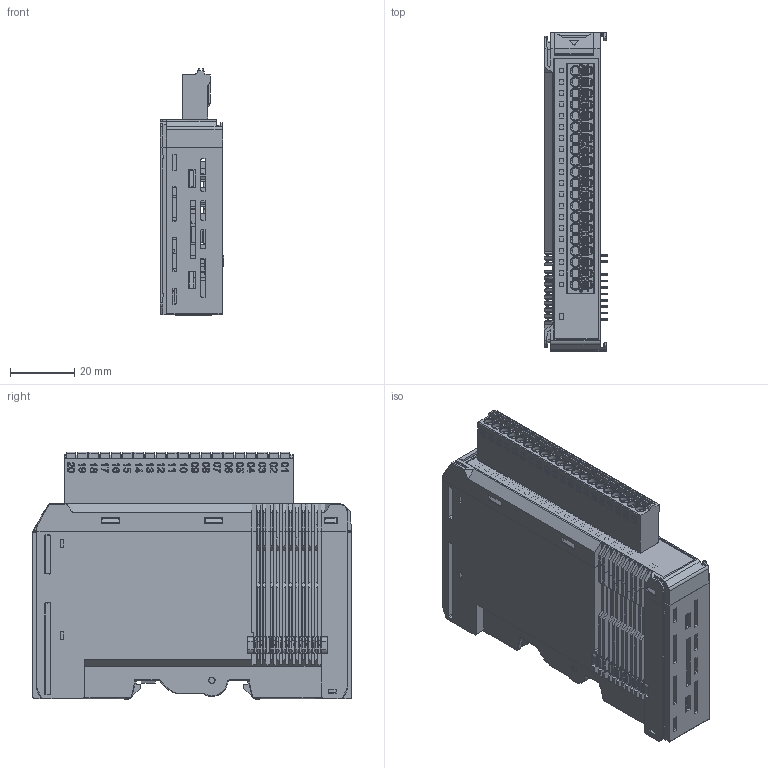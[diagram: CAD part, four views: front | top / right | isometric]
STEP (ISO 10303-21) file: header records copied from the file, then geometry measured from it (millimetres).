
FILE_DESCRIPTION((''),'2;1');
FILE_NAME('3D_45MR','2018-10-16T',('ChrisYC_Huang'),('PTC'),'PRO/ENGINEER BY PARAMETRIC TECHNOLOGY CORPORATION, 2017170','PRO/ENGINEER BY PARAMETRIC TECHNOLOGY CORPORATION, 2017170','');
FILE_SCHEMA(('AUTOMOTIVE_DESIGN { 1 0 10303 214 1 1 1 1 }'));
Products named in the file (1): 3D_45MR
Bounding box: 19.9 x 99 x 76.92 mm (x, y, z)
Volume: 48846.7 mm3; surface area: 71927.9 mm2
Topology: 2 solids, 32 shells, 7892 faces, 24060 edges, 16247 vertices
Faces by surface type: plane 5828, cylinder 1654, cone 199, sphere 120, torus 47, bspline 44
Entity records: 302924 total; most frequent: CARTESIAN_POINT 57492, ORIENTED_EDGE 47880, DIRECTION 42097, EDGE_CURVE 23940, VECTOR 19427, LINE 19427, VERTEX_POINT 16247, AXIS2_PLACEMENT_3D 11335
